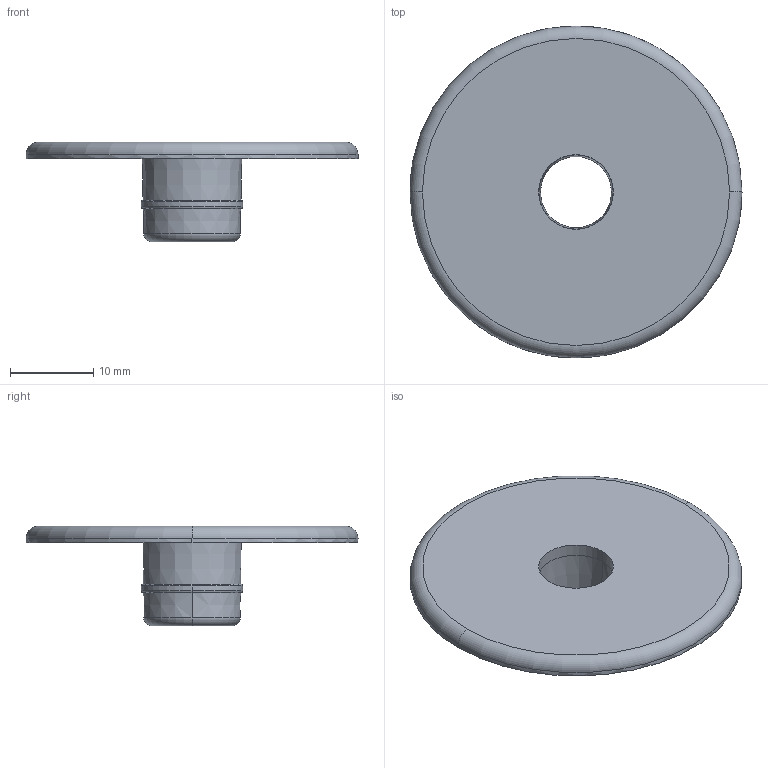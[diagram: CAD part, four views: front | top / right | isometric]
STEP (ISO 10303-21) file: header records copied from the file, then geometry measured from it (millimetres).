
FILE_DESCRIPTION(('STEP AP214'),'1');
FILE_NAME('EGTxxx_1730234_ABDECKKAPPE_EGT_005.CATPart.stp','2015-09-14T13:17:07',('3D-Tool'),(' '),'Spatial InterOp 3D',' ',' ');
FILE_SCHEMA(('automotive_design'));
Length unit declared in the file: millimetre
Products named in the file (2): EGTxxx_1730234_ABDECKKAPPE_EGT_005|Part_1|Solid_1; EGTxxx_1730234_ABDECKKAPPE_EGT_005|Part_2|Solid_2
Bounding box: 40 x 40 x 12 mm (x, y, z)
Volume: 2419.8 mm3; surface area: 3423.7 mm2
Topology: 2 solids, 2 shells, 27 faces, 54 edges, 33 vertices
Faces by surface type: plane 7, torus 7, cone 7, cylinder 6
Entity records: 1069 total; most frequent: CARTESIAN_POINT 220, DIRECTION 140, ORIENTED_EDGE 104, AXIS2_PLACEMENT_3D 64, EDGE_CURVE 52, EDGE_LOOP 35, CIRCLE 35, VERTEX_POINT 33
